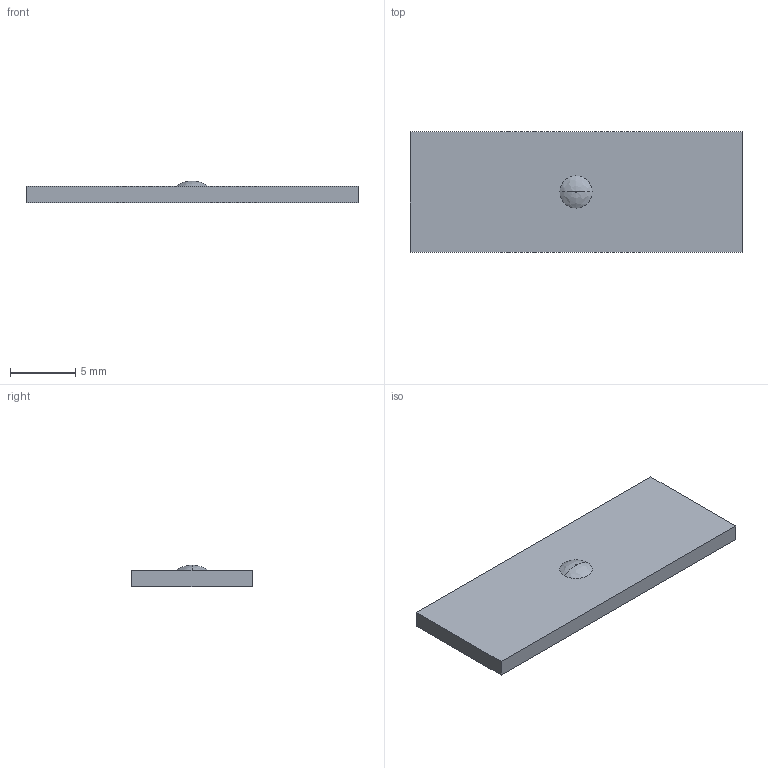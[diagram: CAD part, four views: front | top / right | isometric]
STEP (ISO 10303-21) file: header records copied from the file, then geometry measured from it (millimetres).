
FILE_DESCRIPTION((''),'1');
FILE_NAME('C:/Users/ericfrey/Desktop/LITTLE.stp', '2015-02-09T22:51:22',(''), (''), 'KCM Version 1.1.1182.0', 'Kubotek KeyCreator', '');
FILE_SCHEMA(('AUTOMOTIVE_DESIGN'));
Length unit declared in the file: inch
Bounding box: 25.4 x 9.19 x 1.65 mm (x, y, z)
Volume: 297.2 mm3; surface area: 555.9 mm2
Topology: 1 solids, 1 shells, 12 faces, 24 edges, 16 vertices
Faces by surface type: plane 8, bspline 4
Entity records: 445 total; most frequent: CARTESIAN_POINT 181, ORIENTED_EDGE 48, DIRECTION 46, EDGE_CURVE 24, AXIS2_PLACEMENT_3D 17, VERTEX_POINT 16, EDGE_LOOP 14, VECTOR 12
